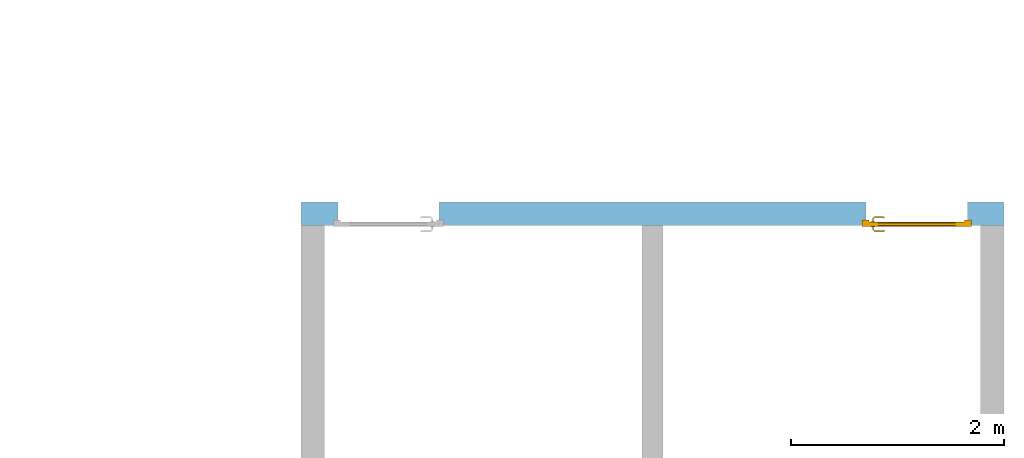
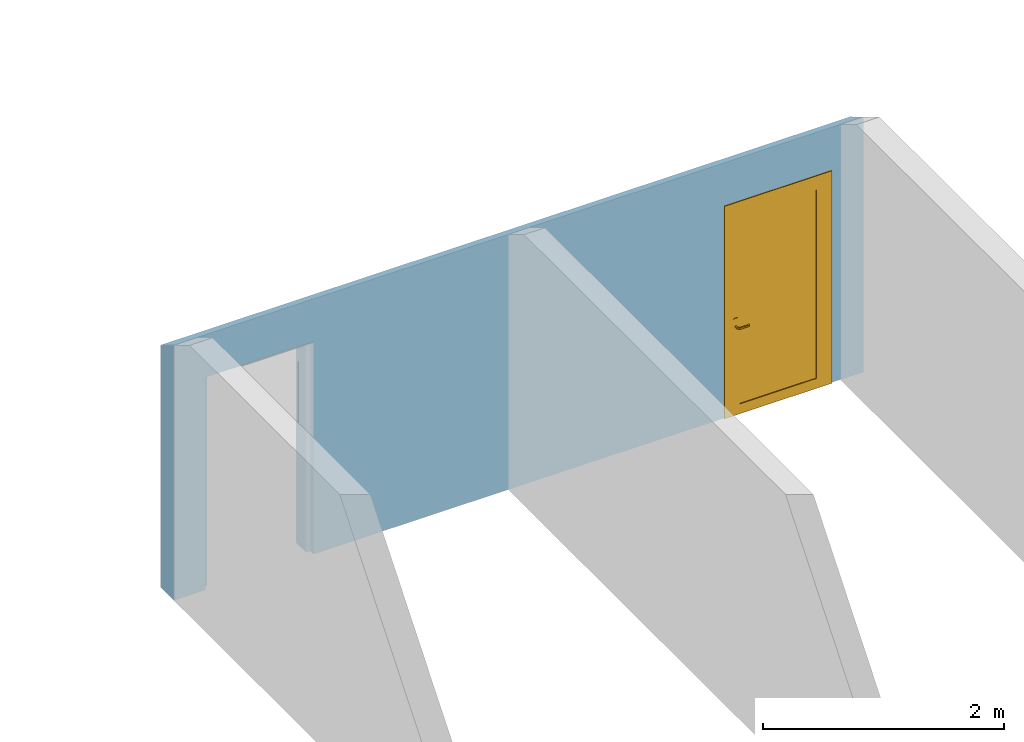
# One storey, part 8 of 12: 1 door, 2 openings, plus 1 element that does not belong to this part.
"""IFC2X3 building model written with IfcOpenShell, lengths in metres."""

from ifc_helpers import new_model, entity, si_unit, converted_unit, derived_unit, direction, frame, frame_2d, origin, place, context, subcontext, project, spatial, polyline, rectangle, extrude, clip, bounded_halfspace, faceted_brep, source, transform, mapped, material, material_list, layer, layer_set, layer_usage, type_object, type_shapes, element, fill, save


model = new_model("IFC2X3")

# Units and contexts
model_context = context("Model", 3, precision=1e-05, world=origin(), true_north=direction((6.12303176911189e-17, 1.0)))
context_of_model = context(None, 3, precision=1e-05, world=origin(), true_north=direction((6.12303176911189e-17, 1.0)))
body_context = subcontext(model_context, "Body", "Model", "MODEL_VIEW")
ifc_project = project(units=[si_unit("LENGTHUNIT", "METRE"), si_unit("AREAUNIT", "SQUARE_METRE"), si_unit("VOLUMEUNIT", "CUBIC_METRE"), converted_unit("PLANEANGLEUNIT", "DEGREE", entity("IfcRatioMeasure", 0.0174532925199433), si_unit("PLANEANGLEUNIT", "RADIAN"), dimensions=[0, 0, 0, 0, 0, 0, 0]), si_unit("MASSUNIT", "GRAM", prefix="KILO"), si_unit("TIMEUNIT", "SECOND"), si_unit("FREQUENCYUNIT", "HERTZ"), si_unit("THERMODYNAMICTEMPERATUREUNIT", "DEGREE_CELSIUS"), derived_unit("THERMALTRANSMITTANCEUNIT", [(si_unit("MASSUNIT", "GRAM", prefix="KILO"), 1), (si_unit("THERMODYNAMICTEMPERATUREUNIT", "KELVIN"), -1), (si_unit("TIMEUNIT", "SECOND"), -3)]), derived_unit("VOLUMETRICFLOWRATEUNIT", [(si_unit("LENGTHUNIT", "METRE"), 3), (si_unit("TIMEUNIT", "SECOND"), -1)]), si_unit("ELECTRICCURRENTUNIT", "AMPERE"), si_unit("ELECTRICVOLTAGEUNIT", "VOLT"), si_unit("POWERUNIT", "WATT"), si_unit("FORCEUNIT", "NEWTON", prefix="KILO"), si_unit("ILLUMINANCEUNIT", "LUX"), si_unit("LUMINOUSFLUXUNIT", "LUMEN"), si_unit("LUMINOUSINTENSITYUNIT", "CANDELA"), derived_unit("USERDEFINED", [(si_unit("MASSUNIT", "GRAM", prefix="KILO"), -1), (si_unit("LENGTHUNIT", "METRE"), -2), (si_unit("TIMEUNIT", "SECOND"), 3), (si_unit("LUMINOUSFLUXUNIT", "LUMEN"), 1)]), derived_unit("LINEARVELOCITYUNIT", [(si_unit("LENGTHUNIT", "METRE"), 1), (si_unit("TIMEUNIT", "SECOND"), -1)]), si_unit("PRESSUREUNIT", "PASCAL"), derived_unit("USERDEFINED", [(si_unit("LENGTHUNIT", "METRE"), -2), (si_unit("MASSUNIT", "GRAM", prefix="KILO"), 1), (si_unit("TIMEUNIT", "SECOND"), -2)])], contexts=[model_context, context_of_model])

# Site, building, storey
site_placement = place(None, origin())
site = spatial("IfcSite", under=ifc_project, at=site_placement, Name="Surface", CompositionType="ELEMENT")
building_placement = place(site_placement, origin())
building = spatial("IfcBuilding", under=site, at=building_placement, CompositionType="ELEMENT")
storey_placement = place(building_placement, origin())
storey = spatial("IfcBuildingStorey", under=building, at=storey_placement, Name="Rez de chaussée", CompositionType="ELEMENT", Elevation=0.0)

# Wall, openings, door
ifc_material_1 = material(Name="Maçonnerie - Enduit")
ifc_layer_1 = layer(ifc_material_1, 0.02)
ifc_material_2 = material(Name="Maçonnerie - Béton")
ifc_layer_2 = layer(ifc_material_2, 0.2)
ifc_layer_set = layer_set([ifc_layer_1, ifc_layer_2], Name="Mur de base:Ext.BBM + enduit 22")
ifc_layer_usage = layer_usage(ifc_layer_set, "AXIS2", "NEGATIVE", 0.11)
wall_type = type_object("IfcWallType", Name="Mur de base:Ext.BBM + enduit 22", PredefinedType="STANDARD", material=ifc_layer_set)
wall_placement = place(storey_placement, frame((-3.58506493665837, -14.0835833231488, 0.0)))
wall = element("IfcWallStandardCase", 1, at=wall_placement, inside=storey, type_object=wall_type, material=ifc_layer_usage, Name="Mur de base:Ext.BBM + enduit 22", ObjectType="Mur de base:Ext.BBM + enduit 22", context=body_context, shape_type="Clipping", body=[
    clip(extrude(rectangle(XDim=6.60000000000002, YDim=0.220000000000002, at=frame_2d((3.30000000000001, -2.70616862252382e-16), x_axis=(-1.0, 0.0))), origin(), (0.0, 0.0, 1.0), 2.58218933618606), bounded_halfspace(frame((0.0, -0.109999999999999, 2.58218933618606), z_axis=(0.0, 0.515038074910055, 0.857167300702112), x_axis=(-1.0, 0.0, 0.0)), False, frame((0.0, -0.109999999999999, 2.58218933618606)), polyline([(0.0, 0.0), (0.22, 0.0), (3.2, 0.0), (3.4, 0.0), (6.38000000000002, 0.0), (6.60000000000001, 0.0), (6.60000000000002, 0.219999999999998), (0.0, 0.22), (0.0, 0.0)]))),
])
opening_1_placement = place(wall_placement, frame((0.305000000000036, -0.410000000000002, 0.0)))
element("IfcOpeningElement", 2, at=opening_1_placement, cuts=wall, Name="Mur de base:Ext.BBM + enduit 22", ObjectType="Opening", context=body_context, shape_type="Brep", body=[
    faceted_brep([(0.98999999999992, 0.820000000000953, 2.11000000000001), (0.0400000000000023, 0.820000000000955, 2.11000000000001), (0.0400000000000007, 0.350000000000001, 2.11000000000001), (0.989999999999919, 0.349999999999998, 2.11000000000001), (0.0400000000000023, 0.820000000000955, 0.0), (0.98999999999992, 0.820000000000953, 0.0), (0.989999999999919, 0.349999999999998, 0.0), (1.02999999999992, 0.349999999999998, 0.0), (1.02999999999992, 0.299999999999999, 0.0), (0.989999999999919, 0.299999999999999, 0.0), (0.989999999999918, 0.0, 0.0), (0.0399999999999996, 0.0, 0.0), (0.0400000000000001, 0.300000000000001, 0.0), (0.0, 0.300000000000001, 0.0), (0.0, 0.350000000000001, 0.0), (0.0400000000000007, 0.350000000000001, 0.0), (0.989999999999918, 0.0, 2.11000000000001), (0.0399999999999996, 0.0, 2.11000000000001), (1.02999999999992, 0.299999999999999, 2.15000000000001), (0.0, 0.300000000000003, 2.15000000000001), (0.0400000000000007, 0.300000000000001, 2.11000000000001), (0.989999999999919, 0.299999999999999, 2.11000000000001), (1.02999999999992, 0.349999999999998, 2.15000000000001), (0.0, 0.350000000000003, 2.15000000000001)], [[[0, 1, 2, 3]], [[4, 5, 6, 7, 8, 9, 10, 11, 12, 13, 14, 15]], [[1, 0, 5, 4]], [[5, 0, 3, 6]], [[16, 17, 11, 10]], [[1, 4, 15, 2]], [[9, 8, 18, 19, 13, 12, 20, 21]], [[8, 7, 22, 18]], [[7, 6, 3, 2, 15, 14, 23, 22]], [[19, 18, 22, 23]], [[13, 19, 23, 14]], [[11, 17, 20, 12]], [[16, 10, 9, 21]], [[17, 16, 21, 20]]]),
])
opening_2_placement = place(wall_placement, frame((5.26500000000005, -0.41000000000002, 0.0)))
opening_2 = element("IfcOpeningElement", 3, at=opening_2_placement, cuts=wall, Name="Mur de base:Ext.BBM + enduit 22", ObjectType="Opening", context=body_context, shape_type="Brep", body=[
    faceted_brep([(0.989999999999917, 0.0, 2.11000000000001), (0.989999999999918, 0.299999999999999, 2.11000000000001), (0.0399999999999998, 0.300000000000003, 2.11000000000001), (0.039999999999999, 0.0, 2.11000000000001), (0.98999999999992, 0.820000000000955, 0.0), (0.989999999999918, 0.350000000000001, 0.0), (1.02999999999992, 0.349999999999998, 0.0), (1.02999999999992, 0.299999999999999, 0.0), (0.989999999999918, 0.299999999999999, 0.0), (0.989999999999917, 0.0, 0.0), (0.039999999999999, 0.0, 0.0), (0.0399999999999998, 0.300000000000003, 0.0), (0.0, 0.300000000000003, 0.0), (0.0, 0.350000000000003, 0.0), (0.0399999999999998, 0.350000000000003, 0.0), (0.0400000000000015, 0.820000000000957, 0.0), (0.98999999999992, 0.820000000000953, 2.11000000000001), (0.0400000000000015, 0.820000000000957, 2.11000000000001), (0.989999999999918, 0.350000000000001, 2.11000000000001), (1.02999999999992, 0.299999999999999, 2.15000000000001), (0.0, 0.300000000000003, 2.15000000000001), (0.0, 0.350000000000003, 2.15000000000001), (1.02999999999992, 0.349999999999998, 2.15000000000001), (0.0399999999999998, 0.350000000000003, 2.11000000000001)], [[[0, 1, 2, 3]], [[4, 5, 6, 7, 8, 9, 10, 11, 12, 13, 14, 15]], [[16, 4, 15, 17]], [[3, 2, 11, 10]], [[3, 10, 9, 0]], [[16, 18, 5, 4]], [[11, 2, 1, 8, 7, 19, 20, 12]], [[12, 20, 21, 13]], [[13, 21, 22, 6, 5, 18, 23, 14]], [[19, 22, 21, 20]], [[7, 6, 22, 19]], [[9, 8, 1, 0]], [[15, 14, 23, 17]], [[17, 23, 18, 16]]]),
])
ifc_material_3 = material(Name="Poignée PVC")
ifc_material_4 = material(Name="PVC Blanc")
ifc_material_list_1 = material_list([ifc_material_3, ifc_material_4])
ifc_material_list_2 = material_list([ifc_material_3, ifc_material_4])
door_style = type_object("IfcDoorStyle", Name="93 x 210 - (90)", ConstructionType="NOTDEFINED", OperationType="SINGLE_SWING_LEFT", ParameterTakesPrecedence=False, Sizeable=False, material=ifc_material_list_2)
shared_shape = source(origin(), body_context, "Body", "Brep", [
    faceted_brep([(0.102974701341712, -0.485000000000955, 0.892219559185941), (0.107025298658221, -0.485000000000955, 0.892219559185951), (0.110999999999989, -0.485000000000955, 0.893000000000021), (0.110999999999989, -0.485000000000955, 0.90699999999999), (0.10702529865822, -0.485000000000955, 0.907780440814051), (0.10297470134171, -0.485000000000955, 0.907780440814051), (0.0989999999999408, -0.485000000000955, 0.90699999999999), (0.0989999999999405, -0.485000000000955, 0.892999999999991), (0.110999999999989, -0.462514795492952, 0.893000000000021), (0.110999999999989, -0.462514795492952, 0.90699999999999), (0.10702529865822, -0.460868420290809, 0.907780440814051), (0.120838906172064, -0.447054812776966, 0.907780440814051), (0.119161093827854, -0.443004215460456, 0.907780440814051), (0.102974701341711, -0.459190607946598, 0.907780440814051), (0.210684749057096, -0.453532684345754, 0.907780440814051), (0.213548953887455, -0.450668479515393, 0.907780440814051), (0.205884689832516, -0.443004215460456, 0.907780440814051), (0.204206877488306, -0.447054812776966, 0.907780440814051), (0.098999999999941, -0.457544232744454, 0.90699999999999), (0.0989999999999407, -0.457544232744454, 0.892999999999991), (0.102974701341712, -0.459190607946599, 0.892219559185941), (0.119161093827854, -0.443004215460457, 0.892219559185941), (0.120838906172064, -0.447054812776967, 0.892219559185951), (0.107025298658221, -0.460868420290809, 0.892219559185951), (0.213548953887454, -0.450668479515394, 0.89221955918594), (0.210684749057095, -0.453532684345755, 0.89221955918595), (0.204206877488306, -0.447054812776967, 0.89221955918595), (0.205884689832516, -0.443004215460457, 0.89221955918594), (0.122485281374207, -0.451029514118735, 0.893000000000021), (0.122485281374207, -0.451029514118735, 0.90699999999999), (0.117514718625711, -0.439029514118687, 0.90699999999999), (0.11751471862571, -0.439029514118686, 0.892999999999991), (0.162522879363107, -0.451029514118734, 0.89300000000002), (0.202560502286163, -0.451029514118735, 0.89300000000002), (0.202560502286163, -0.451029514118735, 0.90699999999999), (0.162522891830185, -0.451029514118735, 0.90699999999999), (0.162522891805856, -0.444875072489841, 0.907878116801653), (0.207531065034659, -0.439029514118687, 0.90699999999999), (0.16760057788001, -0.439029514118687, 0.90699999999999), (0.207531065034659, -0.439029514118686, 0.892999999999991), (0.157445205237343, -0.439029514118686, 0.892999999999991), (0.162522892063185, -0.444875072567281, 0.892121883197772), (0.20787421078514, -0.45634322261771, 0.89300000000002), (0.216359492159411, -0.447857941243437, 0.892999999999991), (0.216359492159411, -0.447857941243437, 0.90699999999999), (0.20787421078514, -0.45634322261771, 0.90699999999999)], [[[0, 1, 2, 3, 4, 5, 6, 7]], [[3, 2, 8, 9]], [[9, 10, 4, 3]], [[10, 11, 12, 13, 5, 4]], [[14, 15, 16, 17]], [[13, 18, 6, 5]], [[7, 6, 18, 19]], [[19, 20, 0, 7]], [[20, 21, 22, 23, 1, 0]], [[24, 25, 26, 27]], [[23, 8, 2, 1]], [[9, 8, 28, 29]], [[29, 11, 10, 9]], [[12, 30, 18, 13]], [[19, 18, 30, 31]], [[31, 21, 20, 19]], [[22, 28, 8, 23]], [[28, 32, 33, 34, 35, 29]], [[11, 35, 36]], [[16, 37, 38]], [[30, 12, 38]], [[38, 12, 36]], [[36, 35, 17]], [[17, 16, 36]], [[35, 11, 29]], [[34, 17, 35]], [[11, 36, 12]], [[38, 36, 16]], [[31, 30, 38, 37, 39, 40]], [[40, 41, 21]], [[41, 40, 27]], [[21, 31, 40]], [[39, 27, 40]], [[41, 32, 22]], [[22, 21, 41]], [[26, 32, 41]], [[28, 22, 32]], [[32, 26, 33]], [[26, 41, 27]], [[42, 25, 24, 43, 44, 15, 14, 45]], [[34, 33, 42, 45]], [[45, 14, 17, 34]], [[15, 44, 37, 16]], [[39, 37, 44, 43]], [[43, 24, 27, 39]], [[25, 42, 33, 26]]]),
    faceted_brep([(0.102974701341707, -0.535000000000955, 0.907780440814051), (0.107025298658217, -0.535000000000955, 0.907780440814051), (0.110999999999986, -0.535000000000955, 0.906999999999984), (0.110999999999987, -0.535000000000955, 0.893000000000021), (0.107025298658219, -0.535000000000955, 0.89221955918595), (0.102974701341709, -0.535000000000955, 0.892219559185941), (0.0989999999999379, -0.535000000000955, 0.892999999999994), (0.0989999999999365, -0.535000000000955, 0.90699999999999), (0.0989999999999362, -0.562650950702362, 0.906999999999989), (0.102974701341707, -0.561004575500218, 0.907780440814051), (0.119023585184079, -0.57705345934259, 0.907780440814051), (0.12070139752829, -0.573002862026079, 0.907780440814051), (0.107025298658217, -0.559326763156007, 0.907780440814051), (0.21352181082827, -0.569389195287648, 0.90778044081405), (0.210657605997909, -0.566524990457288, 0.90778044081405), (0.204179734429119, -0.573002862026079, 0.90778044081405), (0.20585754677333, -0.57705345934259, 0.90778044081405), (0.110999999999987, -0.557680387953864, 0.90699999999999), (0.110999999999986, -0.557680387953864, 0.893000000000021), (0.107025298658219, -0.559326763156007, 0.89221955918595), (0.120701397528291, -0.573002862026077, 0.89221955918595), (0.11902358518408, -0.577053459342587, 0.89221955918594), (0.102974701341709, -0.561004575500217, 0.89221955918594), (0.210657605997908, -0.566524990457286, 0.89221955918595), (0.213521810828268, -0.569389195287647, 0.89221955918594), (0.205857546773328, -0.577053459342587, 0.89221955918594), (0.204179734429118, -0.573002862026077, 0.89221955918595), (0.0989999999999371, -0.562650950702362, 0.892999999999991), (0.117377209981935, -0.58102816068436, 0.906999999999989), (0.122347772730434, -0.569028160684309, 0.90699999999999), (0.122347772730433, -0.56902816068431, 0.893000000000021), (0.117377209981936, -0.581028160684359, 0.892999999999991), (0.157307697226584, -0.58102816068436, 0.906999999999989), (0.162440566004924, -0.575182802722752, 0.907878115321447), (0.207503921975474, -0.58102816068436, 0.906999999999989), (0.162440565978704, -0.569028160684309, 0.90699999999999), (0.202533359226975, -0.569028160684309, 0.906999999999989), (0.202533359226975, -0.56902816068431, 0.89300000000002), (0.162440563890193, -0.569028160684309, 0.893000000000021), (0.162440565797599, -0.575182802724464, 0.892121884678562), (0.207503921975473, -0.581028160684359, 0.892999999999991), (0.167573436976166, -0.581028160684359, 0.892999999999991), (0.207847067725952, -0.563714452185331, 0.906999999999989), (0.216332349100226, -0.572199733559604, 0.906999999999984), (0.216332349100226, -0.572199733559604, 0.892999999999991), (0.207847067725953, -0.563714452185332, 0.893000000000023)], [[[0, 1, 2, 3, 4, 5, 6, 7]], [[8, 9, 0, 7]], [[9, 10, 11, 12, 1, 0]], [[13, 14, 15, 16]], [[12, 17, 2, 1]], [[3, 2, 17, 18]], [[18, 19, 4, 3]], [[19, 20, 21, 22, 5, 4]], [[23, 24, 25, 26]], [[22, 27, 6, 5]], [[7, 6, 27, 8]], [[28, 10, 9, 8]], [[11, 29, 17, 12]], [[18, 17, 29, 30]], [[30, 20, 19, 18]], [[21, 31, 27, 22]], [[8, 27, 31, 28]], [[32, 33, 10]], [[33, 32, 16]], [[10, 28, 32]], [[34, 16, 32]], [[33, 35, 11]], [[11, 10, 33]], [[15, 35, 33]], [[29, 11, 35]], [[35, 15, 36]], [[15, 33, 16]], [[30, 29, 35, 36, 37, 38]], [[20, 38, 39]], [[25, 40, 41]], [[31, 21, 41]], [[41, 21, 39]], [[39, 38, 26]], [[26, 25, 39]], [[38, 20, 30]], [[37, 26, 38]], [[20, 39, 21]], [[41, 39, 25]], [[28, 31, 41, 40, 34, 32]], [[42, 14, 13, 43, 44, 24, 23, 45]], [[43, 13, 16, 34]], [[14, 42, 36, 15]], [[37, 36, 42, 45]], [[45, 23, 26, 37]], [[24, 44, 40, 25]], [[34, 40, 44, 43]]]),
    faceted_brep([(0.11535276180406, -0.490000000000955, 0.766003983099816), (0.124999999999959, -0.490000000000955, 0.770000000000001), (0.124999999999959, -0.490000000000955, 0.980000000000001), (0.11535276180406, -0.490000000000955, 0.983996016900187), (0.104999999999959, -0.490000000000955, 0.985358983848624), (0.0946472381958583, -0.490000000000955, 0.983996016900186), (0.0849999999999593, -0.490000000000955, 0.980000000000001), (0.0849999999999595, -0.490000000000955, 0.770000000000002), (0.0946472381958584, -0.490000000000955, 0.766003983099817), (0.104999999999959, -0.490000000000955, 0.764641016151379), (0.11535276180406, -0.485000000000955, 0.983996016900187), (0.124999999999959, -0.485000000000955, 0.980000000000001), (0.124999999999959, -0.485000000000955, 0.770000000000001), (0.11535276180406, -0.485000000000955, 0.766003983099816), (0.104999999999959, -0.485000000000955, 0.764641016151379), (0.0946472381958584, -0.485000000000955, 0.766003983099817), (0.0849999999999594, -0.485000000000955, 0.770000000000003), (0.0849999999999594, -0.485000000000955, 0.980000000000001), (0.0946472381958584, -0.485000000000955, 0.983996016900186), (0.104999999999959, -0.485000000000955, 0.985358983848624)], [[[0, 1, 2, 3, 4, 5, 6, 7, 8, 9]], [[10, 11, 12, 13, 14, 15, 16, 17, 18, 19]], [[11, 10, 3, 2]], [[3, 10, 19, 4]], [[19, 18, 5, 4]], [[18, 17, 6, 5]], [[7, 6, 17, 16]], [[16, 15, 8, 7]], [[8, 15, 14, 9]], [[14, 13, 0, 9]], [[13, 12, 1, 0]], [[2, 1, 12, 11]]]),
    faceted_brep([(0.115352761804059, -0.535000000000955, 0.766003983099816), (0.124999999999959, -0.535000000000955, 0.770000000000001), (0.124999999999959, -0.535000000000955, 0.980000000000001), (0.11535276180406, -0.535000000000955, 0.983996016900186), (0.104999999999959, -0.535000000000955, 0.985358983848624), (0.0946472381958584, -0.535000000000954, 0.983996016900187), (0.0849999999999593, -0.535000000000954, 0.980000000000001), (0.0849999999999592, -0.535000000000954, 0.770000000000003), (0.094647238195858, -0.535000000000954, 0.766003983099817), (0.104999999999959, -0.535000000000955, 0.764641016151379), (0.11535276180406, -0.530000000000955, 0.983996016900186), (0.124999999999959, -0.530000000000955, 0.980000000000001), (0.124999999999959, -0.530000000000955, 0.770000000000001), (0.115352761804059, -0.530000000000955, 0.766003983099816), (0.104999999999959, -0.530000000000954, 0.764641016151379), (0.094647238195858, -0.530000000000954, 0.766003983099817), (0.0849999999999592, -0.530000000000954, 0.770000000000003), (0.0849999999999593, -0.530000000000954, 0.980000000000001), (0.0946472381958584, -0.530000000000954, 0.983996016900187), (0.104999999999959, -0.530000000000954, 0.985358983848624)], [[[0, 1, 2, 3, 4, 5, 6, 7, 8, 9]], [[10, 11, 12, 13, 14, 15, 16, 17, 18, 19]], [[16, 15, 8, 7]], [[8, 15, 14, 9]], [[14, 13, 0, 9]], [[13, 12, 1, 0]], [[2, 1, 12, 11]], [[11, 10, 3, 2]], [[3, 10, 19, 4]], [[19, 18, 5, 4]], [[18, 17, 6, 5]], [[7, 6, 17, 16]]]),
    faceted_brep([(0.0, -0.530000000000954, 0.0), (0.0, -0.470000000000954, 0.0), (0.0649999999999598, -0.470000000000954, 0.0), (0.0649999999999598, -0.490000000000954, 0.0), (0.0499999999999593, -0.490000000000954, 0.0), (0.0499999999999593, -0.530000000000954, 0.0), (0.0, -0.530000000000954, 2.15000000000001), (0.0, -0.470000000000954, 2.15000000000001), (1.02999999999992, -0.470000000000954, 2.15000000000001), (1.02999999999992, -0.470000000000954, 0.0), (0.964999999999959, -0.470000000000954, 0.0), (0.964999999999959, -0.470000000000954, 2.08500000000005), (0.0649999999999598, -0.470000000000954, 2.08500000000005), (0.0649999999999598, -0.490000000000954, 2.08500000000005), (0.964999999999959, -0.490000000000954, 2.08500000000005), (0.964999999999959, -0.490000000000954, 0.0), (0.979999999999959, -0.490000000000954, 0.0), (0.979999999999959, -0.490000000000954, 2.10000000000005), (0.0499999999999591, -0.490000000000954, 2.10000000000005), (0.0499999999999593, -0.530000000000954, 2.10000000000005), (0.97999999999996, -0.530000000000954, 2.10000000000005), (0.97999999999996, -0.530000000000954, 0.0), (1.02999999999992, -0.530000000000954, 0.0), (1.02999999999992, -0.530000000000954, 2.15000000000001)], [[[0, 1, 2, 3, 4, 5]], [[1, 0, 6, 7]], [[2, 1, 7, 8, 9, 10, 11, 12]], [[3, 2, 12, 13]], [[4, 3, 13, 14, 15, 16, 17, 18]], [[5, 4, 18, 19]], [[0, 5, 19, 20, 21, 22, 23, 6]], [[9, 8, 23, 22]], [[10, 9, 22, 21, 16, 15]], [[11, 10, 15, 14]], [[17, 16, 21, 20]], [[7, 6, 23, 8]], [[12, 11, 14, 13]], [[18, 17, 20, 19]]]),
    faceted_brep([(0.0499999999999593, -0.530000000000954, 2.10000000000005), (0.0499999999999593, -0.530000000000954, 0.0), (0.979999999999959, -0.530000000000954, 0.0), (0.979999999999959, -0.530000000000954, 2.10000000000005), (0.880000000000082, -0.530000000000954, 2.01000000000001), (0.88000000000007, -0.530000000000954, 0.0999999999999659), (0.150000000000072, -0.530000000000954, 0.0999999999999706), (0.150000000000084, -0.530000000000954, 2.01000000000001), (0.0499999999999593, -0.490000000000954, 2.10000000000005), (0.979999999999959, -0.490000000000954, 2.10000000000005), (0.979999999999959, -0.490000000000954, 0.0), (0.0499999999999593, -0.490000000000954, 0.0), (0.150000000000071, -0.490000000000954, 2.01000000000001), (0.150000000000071, -0.490000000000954, 0.100000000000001), (0.880000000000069, -0.490000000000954, 0.100000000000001), (0.880000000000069, -0.490000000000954, 2.01000000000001), (0.880000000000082, -0.522000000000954, 2.01000000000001), (0.150000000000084, -0.522000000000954, 2.01000000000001), (0.150000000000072, -0.522000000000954, 0.0999999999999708), (0.88000000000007, -0.522000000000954, 0.0999999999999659), (0.150000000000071, -0.498000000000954, 2.01000000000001), (0.880000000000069, -0.498000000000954, 2.01000000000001), (0.880000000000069, -0.498000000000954, 0.100000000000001), (0.150000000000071, -0.498000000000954, 0.100000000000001)], [[[0, 1, 2, 3], [4, 5, 6, 7]], [[8, 9, 10, 11], [12, 13, 14, 15]], [[1, 0, 8, 11]], [[2, 1, 11, 10]], [[3, 2, 10, 9]], [[0, 3, 9, 8]], [[16, 17, 18, 19]], [[16, 19, 5, 4]], [[19, 18, 6, 5]], [[18, 17, 7, 6]], [[17, 16, 4, 7]], [[20, 21, 22, 23]], [[20, 23, 13, 12]], [[23, 22, 14, 13]], [[22, 21, 15, 14]], [[21, 20, 12, 15]]]),
])
type_shapes(door_style, [shared_shape])
door_placement = place(opening_2_placement, frame((0.0, 0.820000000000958, 0.0)))
door = element("IfcDoor", 4, at=door_placement, inside=storey, type_object=door_style, material=ifc_material_list_1, Name="FR_PVC Panneau Plein:93 x 210 - (90)", ObjectType="93 x 210 - (90)", OverallHeight=2.15000000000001, OverallWidth=1.02999999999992, context=body_context, shape_type="MappedRepresentation", body=[
    mapped(shared_shape, transform((0.0, 0.0, 0.0), scale=1.0)),
])
fill(opening_2, door)

save(model, "model.ifc")
